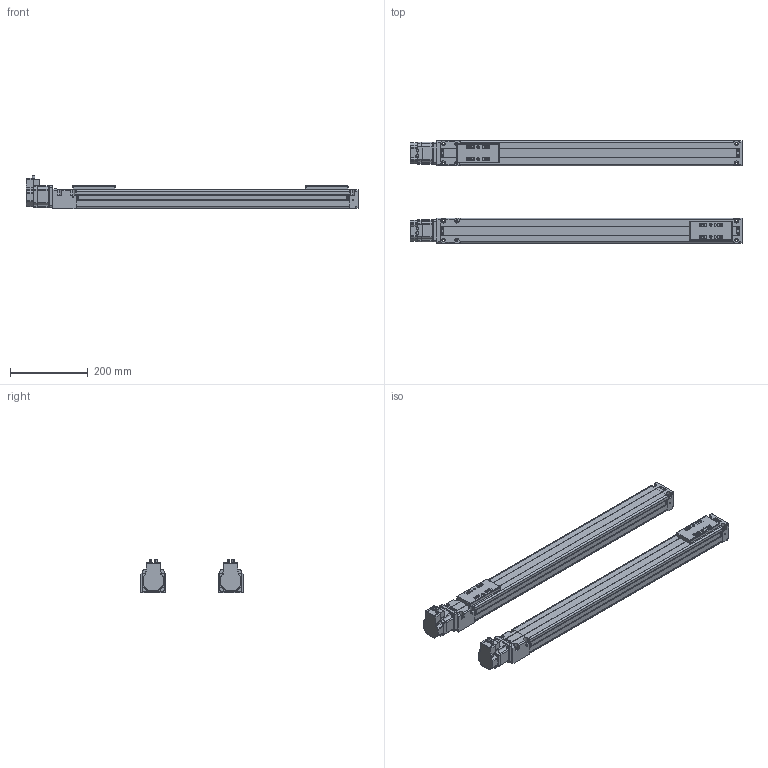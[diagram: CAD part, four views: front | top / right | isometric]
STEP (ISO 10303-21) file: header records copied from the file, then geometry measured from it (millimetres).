
FILE_DESCRIPTION(('STEP AP214'),'1');
FILE_NAME('Z:\外形図\3D DAD2\SCLT6_B\tmp0.step',' ',(' '),(' '),'XStep 1.0',' ',' ');
FILE_SCHEMA(('automotive_design'));
Length unit declared in the file: millimetre
Products named in the file (20): 6; 2; 12; 5; 4; VLAST60-06-0600-0-0N (0) (600)|_VLA-ST-60-12-0050 Slider;_VLA-ST-60-12-0050 Slider; 7; 1; 8; 3; 9; VLAST60-06-0600-0-0N (0) (600)|_VLA-ST-60-12-0600 Body;_VLA-ST-60-12-0600 Body; 11; 10
Bounding box: 856 x 264 x 85.99 mm (x, y, z)
Volume: 1745659.7 mm3; surface area: 898752.3 mm2
Topology: 20 solids, 20 shells, 1758 faces, 4590 edges, 2888 vertices
Faces by surface type: plane 996, cylinder 456, cone 220, bspline 78, sphere 8
Entity records: 70311 total; most frequent: CARTESIAN_POINT 11898, ORIENTED_EDGE 9132, DIRECTION 9110, EDGE_CURVE 4566, LINE 3238, VECTOR 3238, AXIS2_PLACEMENT_3D 2936, VERTEX_POINT 2888
